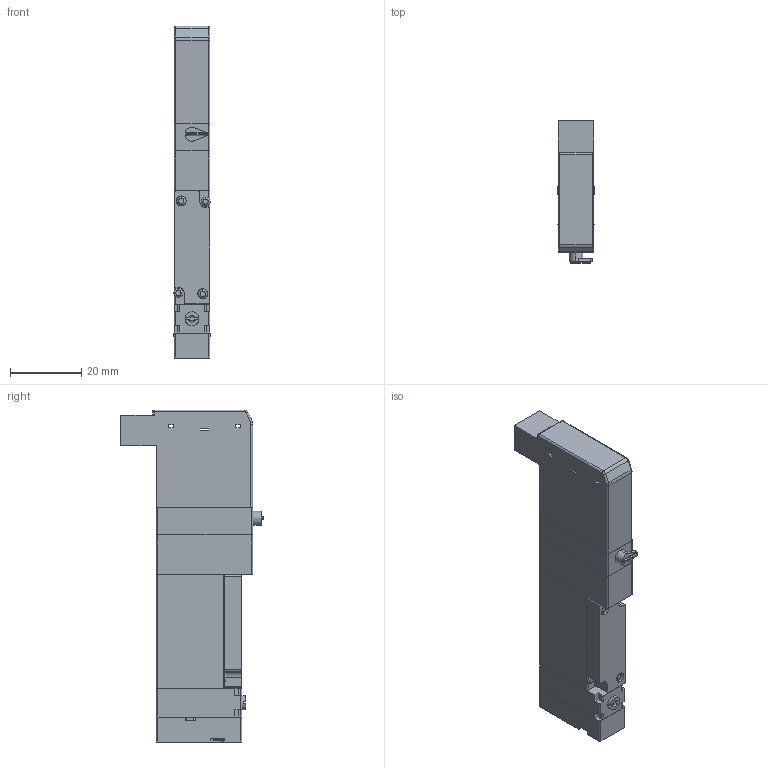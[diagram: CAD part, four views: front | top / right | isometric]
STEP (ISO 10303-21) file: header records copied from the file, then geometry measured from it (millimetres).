
FILE_DESCRIPTION( (''), '2;1');
FILE_NAME ('CVICAD02.13484.F10T2-R-A1_5976.stp','2020-09-01T14:11:11',(''),(''),'spGate 12.6.6','','');
FILE_SCHEMA (('AUTOMOTIVE_DESIGN'));
Length unit declared in the file: millimetre
Products named in the file (8): Assembly; F10_Adptor; F10_Cap; F_Connector-L; F10T_Body; F_3PortBody-R; F10_SwitchBlock; F10_A1
Assembly tree (7 placements, depth 2):
  Assembly
    F10_Adptor
    F10_Cap
    F_Connector-L
    F10T_Body
    F_3PortBody-R
    F10_SwitchBlock
    F10_A1
Bounding box: 10.2 x 40 x 93 mm (x, y, z)
Volume: 24185.3 mm3; surface area: 11074.2 mm2
Topology: 7 solids, 7 shells, 235 faces, 590 edges, 378 vertices
Faces by surface type: plane 125, cylinder 82, bspline 22, sphere 6
Entity records: 12276 total; most frequent: CARTESIAN_POINT 1670, DIRECTION 1209, ORIENTED_EDGE 1168, COLOUR_RGB 826, PRESENTATION_STYLE_ASSIGNMENT 826, STYLED_ITEM 826, EDGE_CURVE 584, DRAUGHTING_PRE_DEFINED_CURVE_FONT 584
